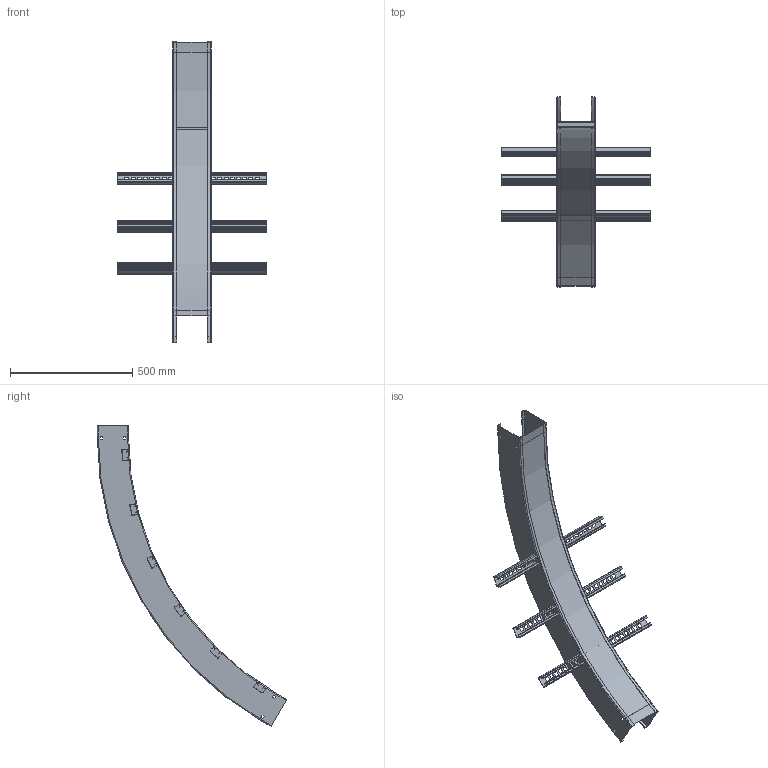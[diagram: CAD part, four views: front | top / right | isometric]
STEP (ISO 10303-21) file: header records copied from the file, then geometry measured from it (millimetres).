
FILE_DESCRIPTION((''),'2;1');
FILE_NAME('AUF506SVO6048_ASM','2010-02-02T',('erouzier'),(''),'PRO/ENGINEER BY PARAMETRIC TECHNOLOGY CORPORATION, 2008510','PRO/ENGINEER BY PARAMETRIC TECHNOLOGY CORPORATION, 2008510','');
FILE_SCHEMA(('CONFIG_CONTROL_DESIGN'));
Length unit declared in the file: inch
Products named in the file (5): CDS001417_5_60_48; CDS002159L6; CDS002159L24-P; CDS003665_60_48_6; AUF506SVO6048_ASM
Assembly tree (9 placements, depth 2):
  AUF506SVO6048_ASM
    CDS001417_5_60_48  x2
    CDS002159L6  x3
    CDS002159L24-P  x3
    CDS003665_60_48_6
Bounding box: 609.6 x 776.16 x 1233.44 mm (x, y, z)
Volume: 1406074.2 mm3; surface area: 1811332.2 mm2
Topology: 9 solids, 9 shells, 838 faces, 2388 edges, 1568 vertices
Faces by surface type: plane 474, cylinder 356, torus 8
Entity records: 10159 total; most frequent: DIRECTION 1756, CARTESIAN_POINT 1742, ORIENTED_EDGE 1720, EDGE_CURVE 860, VECTOR 608, LINE 608, AXIS2_PLACEMENT_3D 574, VERTEX_POINT 560
